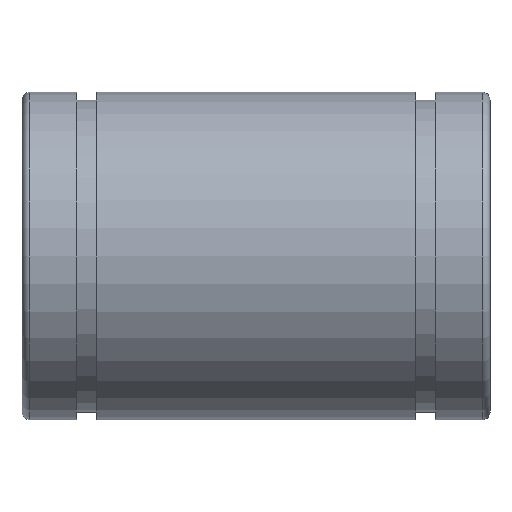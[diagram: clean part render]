
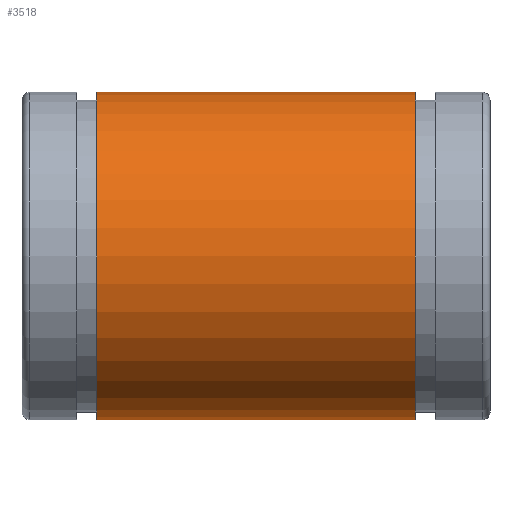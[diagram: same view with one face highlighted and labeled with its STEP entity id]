
A CAD part, front view. The second image highlights one B-rep face of the part: STEP entity #3518.
In plain terms, the highlighted cylindrical face has radius 10.5 mm (diameter 21 mm), a full revolution.
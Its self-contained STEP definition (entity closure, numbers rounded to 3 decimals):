
#23=CYLINDRICAL_SURFACE('',#3670,10.5);
#38=CIRCLE('',#3671,10.5);
#39=CIRCLE('',#3672,10.5);
#66=FACE_BOUND('',#501,.T.);
#296=FACE_OUTER_BOUND('',#500,.T.);
#500=EDGE_LOOP('',(#3134));
#501=EDGE_LOOP('',(#3135));
#1696=VERTEX_POINT('',#6077);
#1697=VERTEX_POINT('',#6079);
#2182=EDGE_CURVE('',#1696,#1696,#38,.T.);
#2183=EDGE_CURVE('',#1697,#1697,#39,.T.);
#3134=ORIENTED_EDGE('',*,*,#2182,.F.);
#3135=ORIENTED_EDGE('',*,*,#2183,.T.);
#3518=ADVANCED_FACE('',(#296,#66),#23,.T.);
#3670=AXIS2_PLACEMENT_3D('',#6076,#4350,#4351);
#3671=AXIS2_PLACEMENT_3D('',#6078,#4352,#4353);
#3672=AXIS2_PLACEMENT_3D('',#6080,#4354,#4355);
#4350=DIRECTION('center_axis',(1.,0.,0.));
#4351=DIRECTION('ref_axis',(0.,1.,0.));
#4352=DIRECTION('center_axis',(1.,0.,0.));
#4353=DIRECTION('ref_axis',(0.,1.,0.));
#4354=DIRECTION('center_axis',(1.,0.,0.));
#4355=DIRECTION('ref_axis',(0.,1.,0.));
#6076=CARTESIAN_POINT('Origin',(0.,0.,0.));
#6077=CARTESIAN_POINT('',(10.2,-10.5,0.));
#6078=CARTESIAN_POINT('Origin',(10.2,0.,0.));
#6079=CARTESIAN_POINT('',(-10.2,-10.5,0.));
#6080=CARTESIAN_POINT('Origin',(-10.2,0.,0.));
